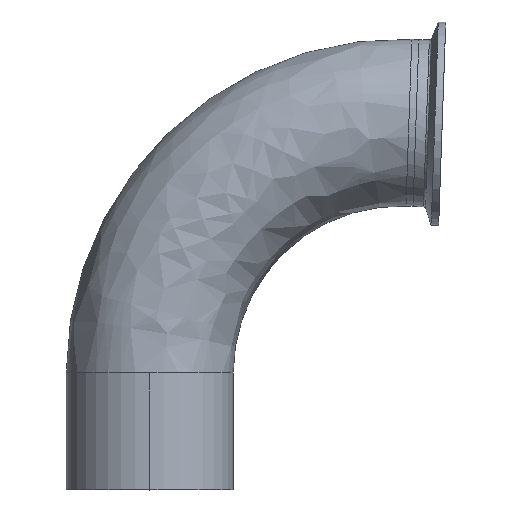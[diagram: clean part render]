
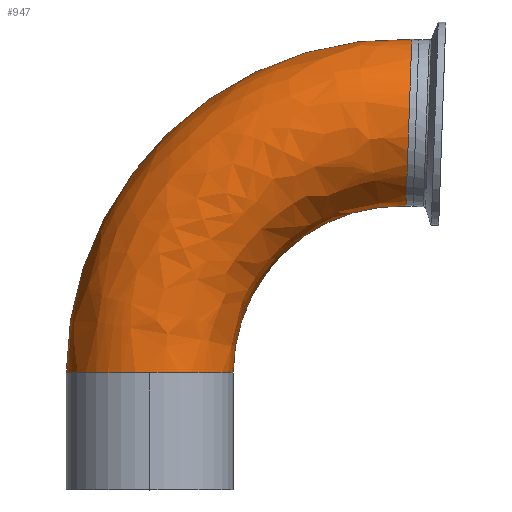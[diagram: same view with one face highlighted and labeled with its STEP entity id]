
A CAD part, top view. The second image highlights one B-rep face of the part: STEP entity #947.
In plain terms, the highlighted free-form (B-spline) face has degree [3, 3] with [4, 4] control points.
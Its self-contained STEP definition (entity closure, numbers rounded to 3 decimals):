
#83 = CARTESIAN_POINT ( 'NONE',  ( 97.466, 107.902, 0. ) ) ;
#87 = EDGE_CURVE ( 'NONE', #473, #181, #1245, .T. ) ;
#106 = CARTESIAN_POINT ( 'NONE',  ( 31.75, 82.676, 0. ) ) ;
#122 = ORIENTED_EDGE ( 'NONE', *, *, #261, .T. ) ;
#150 = CARTESIAN_POINT ( 'NONE',  ( -31.75, 44.441, 0. ) ) ;
#181 = VERTEX_POINT ( 'NONE', #1618 ) ;
#229 = VERTEX_POINT ( 'NONE', #1041 ) ;
#261 = EDGE_CURVE ( 'NONE', #229, #1344, #334, .T. ) ;
#263 = DIRECTION ( 'NONE',  ( 0., 0., -1. ) ) ;
#267 = DIRECTION ( 'NONE',  ( -1., 0., 0. ) ) ;
#333 = CARTESIAN_POINT ( 'NONE',  ( 23.258, 174.032, 63.5 ) ) ;
#334 = CIRCLE ( 'NONE', #1206, 63.5 ) ;
#352 = CARTESIAN_POINT ( 'NONE',  ( 98.574, 139.633, 0. ) ) ;
#368 = CARTESIAN_POINT ( 'NONE',  ( 95.25, 44.441, 0. ) ) ;
#389 = CARTESIAN_POINT ( 'NONE',  ( 99.682, 171.363, 0. ) ) ;
#473 = VERTEX_POINT ( 'NONE', #150 ) ;
#481 = CARTESIAN_POINT ( 'NONE',  ( 97.466, 107.902, 0. ) ) ;
#529 = CARTESIAN_POINT ( 'NONE',  ( -31.75, 120.911, 63.5 ) ) ;
#539 = DIRECTION ( 'NONE',  ( -0.999, 0.035, 0. ) ) ;
#568 = CIRCLE ( 'NONE', #1228, 31.75 ) ;
#582 = CARTESIAN_POINT ( 'NONE',  ( 95.25, 44.441, 0. ) ) ;
#611 = CARTESIAN_POINT ( 'NONE',  ( 59.254, 109.236, 0. ) ) ;
#625 = EDGE_LOOP ( 'NONE', ( #1246, #122, #769, #918, #673 ) ) ;
#654 = CARTESIAN_POINT ( 'NONE',  ( 31.75, 44.441, 0. ) ) ;
#673 = ORIENTED_EDGE ( 'NONE', *, *, #87, .T. ) ;
#689 = DIRECTION ( 'NONE',  ( -1., 0., 0. ) ) ;
#720 = DIRECTION ( 'NONE',  ( 0., 0., -1. ) ) ;
#737 = CIRCLE ( 'NONE', #1581, 127. ) ;
#741 = CARTESIAN_POINT ( 'NONE',  ( 99.682, 171.363, 63.5 ) ) ;
#752 = DIRECTION ( 'NONE',  ( 0.035, 0.999, 0. ) ) ;
#769 = ORIENTED_EDGE ( 'NONE', *, *, #1359, .T. ) ;
#788 = CIRCLE ( 'NONE', #1464, 31.75 ) ;
#918 = ORIENTED_EDGE ( 'NONE', *, *, #1152, .F. ) ;
#947 = ADVANCED_FACE ( 'NONE', ( #1124 ), #1315, .T. ) ;
#952 = CARTESIAN_POINT ( 'NONE',  ( 31.75, 82.676, 63.5 ) ) ;
#1041 = CARTESIAN_POINT ( 'NONE',  ( 31.75, 44.441, 0. ) ) ;
#1086 = CARTESIAN_POINT ( 'NONE',  ( 31.75, 44.441, 63.5 ) ) ;
#1124 = FACE_OUTER_BOUND ( 'NONE', #625, .T. ) ;
#1142 = EDGE_CURVE ( 'NONE', #181, #229, #788, .T. ) ;
#1152 = EDGE_CURVE ( 'NONE', #473, #1779, #737, .T. ) ;
#1206 = AXIS2_PLACEMENT_3D ( 'NONE', #368, #263, #267 ) ;
#1228 = AXIS2_PLACEMENT_3D ( 'NONE', #352, #539, #752 ) ;
#1242 = AXIS2_PLACEMENT_3D ( 'NONE', #1411, #1599, #689 ) ;
#1244 = CARTESIAN_POINT ( 'NONE',  ( -31.75, 44.441, 0. ) ) ;
#1245 = CIRCLE ( 'NONE', #1242, 31.75 ) ;
#1246 = ORIENTED_EDGE ( 'NONE', *, *, #1142, .T. ) ;
#1315 =( BOUNDED_SURFACE ( )  B_SPLINE_SURFACE ( 3, 3, ( 
 ( #1244, #1405, #1434, #1833 ),
 ( #1781, #529, #333, #741 ),
 ( #1086, #952, #1810, #1800 ),
 ( #654, #106, #611, #83 ) ),
 .UNSPECIFIED., .F., .F., .F. ) 
 B_SPLINE_SURFACE_WITH_KNOTS ( ( 4, 4 ),
 ( 4, 4 ),
 ( 0., 1. ),
 ( 0., 1. ),
 .UNSPECIFIED. ) 
 GEOMETRIC_REPRESENTATION_ITEM ( )  RATIONAL_B_SPLINE_SURFACE ( (
 ( 1., 0.796, 0.796, 1.),
 ( 0.333, 0.265, 0.265, 0.333),
 ( 0.333, 0.265, 0.265, 0.333),
 ( 1., 0.796, 0.796, 1.) ) ) 
 REPRESENTATION_ITEM ( '' )  SURFACE ( )  );
#1324 = DIRECTION ( 'NONE',  ( -1., 0., 0. ) ) ;
#1344 = VERTEX_POINT ( 'NONE', #481 ) ;
#1348 = CARTESIAN_POINT ( 'NONE',  ( 0., 44.441, 0. ) ) ;
#1359 = EDGE_CURVE ( 'NONE', #1344, #1779, #568, .T. ) ;
#1405 = CARTESIAN_POINT ( 'NONE',  ( -31.75, 120.911, 0. ) ) ;
#1411 = CARTESIAN_POINT ( 'NONE',  ( 0., 44.441, 0. ) ) ;
#1434 = CARTESIAN_POINT ( 'NONE',  ( 23.258, 174.032, 0. ) ) ;
#1463 = DIRECTION ( 'NONE',  ( 0., 1., 0. ) ) ;
#1464 = AXIS2_PLACEMENT_3D ( 'NONE', #1348, #1463, #1490 ) ;
#1490 = DIRECTION ( 'NONE',  ( -1., 0., 0. ) ) ;
#1581 = AXIS2_PLACEMENT_3D ( 'NONE', #582, #720, #1324 ) ;
#1599 = DIRECTION ( 'NONE',  ( 0., 1., 0. ) ) ;
#1618 = CARTESIAN_POINT ( 'NONE',  ( 0., 44.441, 31.75 ) ) ;
#1779 = VERTEX_POINT ( 'NONE', #389 ) ;
#1781 = CARTESIAN_POINT ( 'NONE',  ( -31.75, 44.441, 63.5 ) ) ;
#1800 = CARTESIAN_POINT ( 'NONE',  ( 97.466, 107.902, 63.5 ) ) ;
#1810 = CARTESIAN_POINT ( 'NONE',  ( 59.254, 109.236, 63.5 ) ) ;
#1833 = CARTESIAN_POINT ( 'NONE',  ( 99.682, 171.363, 0. ) ) ;
